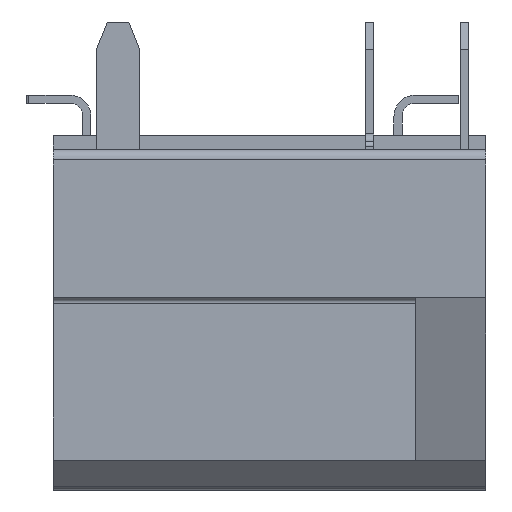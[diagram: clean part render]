
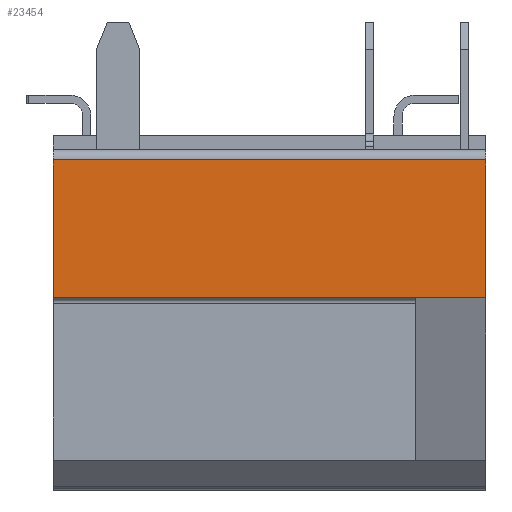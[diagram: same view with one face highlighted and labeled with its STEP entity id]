
A CAD part, left-side view. The second image highlights one B-rep face of the part: STEP entity #23454.
In plain terms, the highlighted planar face has unit normal (-1, 0, 0).
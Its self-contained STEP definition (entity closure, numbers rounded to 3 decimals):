
#508 = DIRECTION ( 'NONE',  ( 0., 1., 0. ) ) ;
#848 = CARTESIAN_POINT ( 'NONE',  ( 5., 0., -2.75 ) ) ;
#1148 = CARTESIAN_POINT ( 'NONE',  ( 5., 0., -2.75 ) ) ;
#2270 = CARTESIAN_POINT ( 'NONE',  ( 5., -8., -2.75 ) ) ;
#2801 = VECTOR ( 'NONE', #508, 1000. ) ;
#8485 = CARTESIAN_POINT ( 'NONE',  ( 5., -8., -0.2 ) ) ;
#9616 = VERTEX_POINT ( 'NONE', #8485 ) ;
#10097 = LINE ( 'NONE', #1148, #45279 ) ;
#11055 = VERTEX_POINT ( 'NONE', #36771 ) ;
#11999 = DIRECTION ( 'NONE',  ( 0., 1., 0. ) ) ;
#16635 = ORIENTED_EDGE ( 'NONE', *, *, #38764, .T. ) ;
#17179 = ORIENTED_EDGE ( 'NONE', *, *, #26632, .F. ) ;
#17478 = DIRECTION ( 'NONE',  ( 0., 1., 0. ) ) ;
#20191 = DIRECTION ( 'NONE',  ( 0., 0., 1. ) ) ;
#21229 = DIRECTION ( 'NONE',  ( -1., 0., 0. ) ) ;
#21887 = DIRECTION ( 'NONE',  ( 0., 0., 1. ) ) ;
#23454 = ADVANCED_FACE ( 'NONE', ( #29920 ), #55439, .T. ) ;
#23646 = VECTOR ( 'NONE', #20191, 1000. ) ;
#23854 = EDGE_CURVE ( 'NONE', #11055, #34541, #45489, .T. ) ;
#24553 = VECTOR ( 'NONE', #40452, 1000. ) ;
#25894 = LINE ( 'NONE', #43011, #33979 ) ;
#26632 = EDGE_CURVE ( 'NONE', #45002, #38111, #10097, .T. ) ;
#28109 = AXIS2_PLACEMENT_3D ( 'NONE', #42275, #21229, #11999 ) ;
#29920 = FACE_OUTER_BOUND ( 'NONE', #35856, .T. ) ;
#30856 = CARTESIAN_POINT ( 'NONE',  ( 5., -6.7, -2.75 ) ) ;
#33092 = ORIENTED_EDGE ( 'NONE', *, *, #44387, .F. ) ;
#33979 = VECTOR ( 'NONE', #17478, 1000. ) ;
#34541 = VERTEX_POINT ( 'NONE', #30856 ) ;
#35856 = EDGE_LOOP ( 'NONE', ( #17179, #33092, #48734, #39076, #16635 ) ) ;
#36316 = EDGE_CURVE ( 'NONE', #11055, #9616, #40677, .T. ) ;
#36771 = CARTESIAN_POINT ( 'NONE',  ( 5., -8., -2.75 ) ) ;
#37065 = CARTESIAN_POINT ( 'NONE',  ( 5., -8., -2.75 ) ) ;
#38111 = VERTEX_POINT ( 'NONE', #48467 ) ;
#38764 = EDGE_CURVE ( 'NONE', #9616, #38111, #25894, .T. ) ;
#38909 = CARTESIAN_POINT ( 'NONE',  ( 5., -6.7, -2.75 ) ) ;
#39076 = ORIENTED_EDGE ( 'NONE', *, *, #36316, .T. ) ;
#40452 = DIRECTION ( 'NONE',  ( 0., 1., 0. ) ) ;
#40677 = LINE ( 'NONE', #2270, #23646 ) ;
#42275 = CARTESIAN_POINT ( 'NONE',  ( 5., -8., -2.75 ) ) ;
#43011 = CARTESIAN_POINT ( 'NONE',  ( 5., -8., -0.2 ) ) ;
#44387 = EDGE_CURVE ( 'NONE', #34541, #45002, #47045, .T. ) ;
#45002 = VERTEX_POINT ( 'NONE', #848 ) ;
#45279 = VECTOR ( 'NONE', #21887, 1000. ) ;
#45489 = LINE ( 'NONE', #37065, #24553 ) ;
#47045 = LINE ( 'NONE', #38909, #2801 ) ;
#48467 = CARTESIAN_POINT ( 'NONE',  ( 5., 0., -0.2 ) ) ;
#48734 = ORIENTED_EDGE ( 'NONE', *, *, #23854, .F. ) ;
#55439 = PLANE ( 'NONE',  #28109 ) ;
